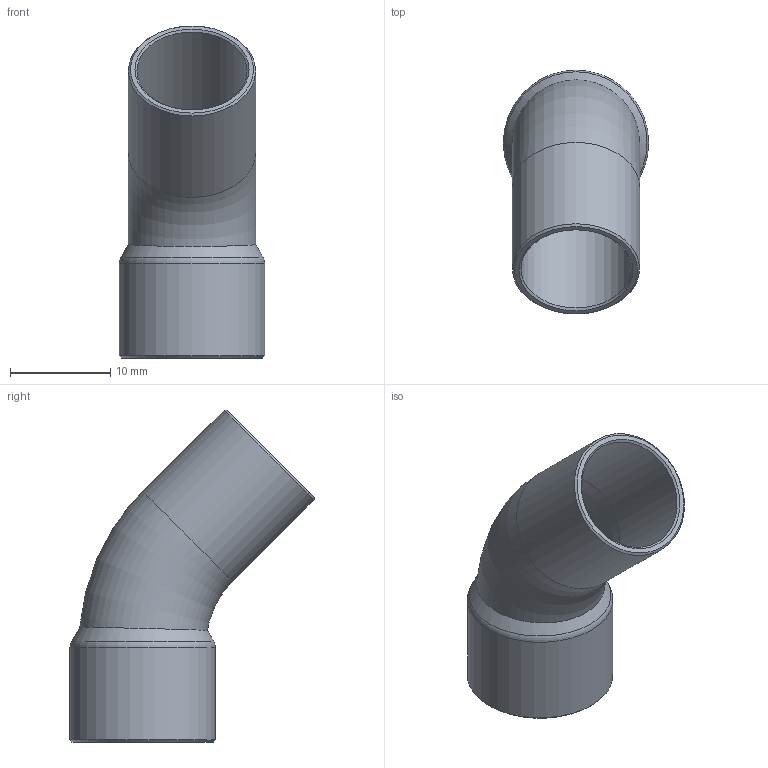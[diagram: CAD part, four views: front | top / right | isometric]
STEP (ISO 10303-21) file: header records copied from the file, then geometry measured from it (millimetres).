
FILE_DESCRIPTION((''),'2;1');
FILE_NAME('G:\SANHA-Ternat\Technik\Management\Bouwmaten + markeringen\z-maattekeningen 3D\29000s\2904012_3d.stp','2017-07-26T14:40:03',('vdvijverd'),(''),'Autodesk Inventor 2009','Autodesk Inventor 2009','');
FILE_SCHEMA(('AUTOMOTIVE_DESIGN { 1 0 10303 214 1 1 1 1 }'));
Length unit declared in the file: millimetre
Products named in the file (1): 2904012_3d
Bounding box: 14.52 x 24.36 x 33.14 mm (x, y, z)
Volume: 1112.7 mm3; surface area: 2674.9 mm2
Topology: 1 solids, 1 shells, 16 faces, 33 edges, 19 vertices
Faces by surface type: cone 6, cylinder 4, torus 3, plane 2, bspline 1
Full cylindrical faces by diameter (mm): 11 x1, 12.7 x1, 12.82 x1, 14.52 x1
Entity records: 460 total; most frequent: CARTESIAN_POINT 165, DIRECTION 60, ORIENTED_EDGE 32, EDGE_LOOP 32, AXIS2_PLACEMENT_3D 30, VERTEX_POINT 16, EDGE_CURVE 16, FACE_OUTER_BOUND 16
